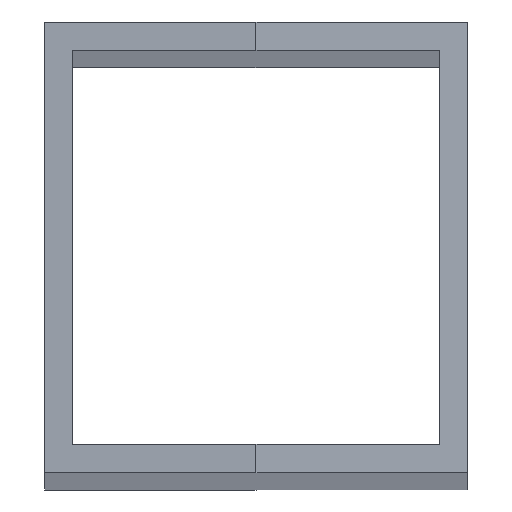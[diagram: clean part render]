
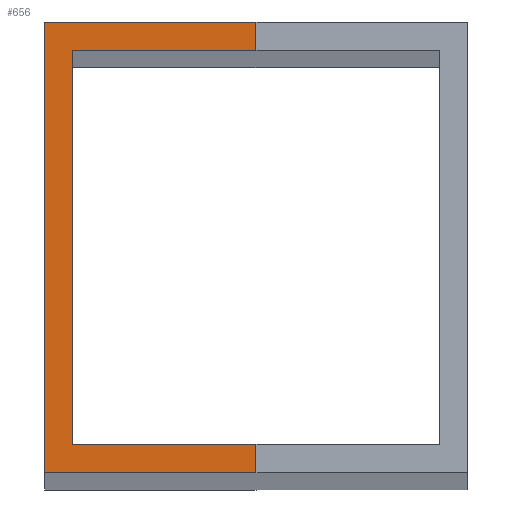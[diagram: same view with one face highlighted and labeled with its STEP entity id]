
A CAD part, top view. The second image highlights one B-rep face of the part: STEP entity #656.
In plain terms, the highlighted planar face has unit normal (0, 0, 1).
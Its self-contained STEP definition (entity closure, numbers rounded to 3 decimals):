
#32 = PLANE('',#33);
#33 = AXIS2_PLACEMENT_3D('',#34,#35,#36);
#34 = CARTESIAN_POINT('',(-37.5,-40.,0.));
#35 = DIRECTION('',(0.,1.,0.));
#36 = DIRECTION('',(1.,0.,0.));
#57 = VERTEX_POINT('',#58);
#58 = CARTESIAN_POINT('',(-37.5,-40.,1767.));
#72 = PLANE('',#73);
#73 = AXIS2_PLACEMENT_3D('',#74,#75,#76);
#74 = CARTESIAN_POINT('',(-37.5,40.,0.));
#75 = DIRECTION('',(1.,0.,-0.));
#76 = DIRECTION('',(0.,-1.,0.));
#84 = EDGE_CURVE('',#57,#85,#87,.T.);
#85 = VERTEX_POINT('',#86);
#86 = CARTESIAN_POINT('',(0.,-40.,1767.));
#87 = SURFACE_CURVE('',#88,(#92,#99),.PCURVE_S1.);
#88 = LINE('',#89,#90);
#89 = CARTESIAN_POINT('',(-37.5,-40.,1767.));
#90 = VECTOR('',#91,1.);
#91 = DIRECTION('',(1.,0.,0.));
#92 = PCURVE('',#32,#93);
#93 = DEFINITIONAL_REPRESENTATION('',(#94),#98);
#94 = LINE('',#95,#96);
#95 = CARTESIAN_POINT('',(0.,-1767.));
#96 = VECTOR('',#97,1.);
#97 = DIRECTION('',(1.,0.));
#98 = ( GEOMETRIC_REPRESENTATION_CONTEXT(2) 
PARAMETRIC_REPRESENTATION_CONTEXT() REPRESENTATION_CONTEXT('2D SPACE',''
  ) );
#99 = PCURVE('',#100,#105);
#100 = PLANE('',#101);
#101 = AXIS2_PLACEMENT_3D('',#102,#103,#104);
#102 = CARTESIAN_POINT('',(0.,0.,1767.));
#103 = DIRECTION('',(0.,0.,1.));
#104 = DIRECTION('',(1.,0.,-0.));
#105 = DEFINITIONAL_REPRESENTATION('',(#106),#110);
#106 = LINE('',#107,#108);
#107 = CARTESIAN_POINT('',(-37.5,-40.));
#108 = VECTOR('',#109,1.);
#109 = DIRECTION('',(1.,0.));
#110 = ( GEOMETRIC_REPRESENTATION_CONTEXT(2) 
PARAMETRIC_REPRESENTATION_CONTEXT() REPRESENTATION_CONTEXT('2D SPACE',''
  ) );
#127 = PLANE('',#128);
#128 = AXIS2_PLACEMENT_3D('',#129,#130,#131);
#129 = CARTESIAN_POINT('',(883.5,-0.,883.5));
#130 = DIRECTION('',(-0.707,0.,-0.707));
#131 = DIRECTION('',(-0.707,0.,0.707));
#254 = PLANE('',#255);
#255 = AXIS2_PLACEMENT_3D('',#256,#257,#258);
#256 = CARTESIAN_POINT('',(-32.5,-35.,0.));
#257 = DIRECTION('',(0.,1.,0.));
#258 = DIRECTION('',(1.,0.,0.));
#282 = PLANE('',#283);
#283 = AXIS2_PLACEMENT_3D('',#284,#285,#286);
#284 = CARTESIAN_POINT('',(-32.5,35.,0.));
#285 = DIRECTION('',(1.,0.,-0.));
#286 = DIRECTION('',(0.,-1.,0.));
#310 = PLANE('',#311);
#311 = AXIS2_PLACEMENT_3D('',#312,#313,#314);
#312 = CARTESIAN_POINT('',(32.5,35.,0.));
#313 = DIRECTION('',(0.,-1.,0.));
#314 = DIRECTION('',(-1.,0.,0.));
#357 = PLANE('',#358);
#358 = AXIS2_PLACEMENT_3D('',#359,#360,#361);
#359 = CARTESIAN_POINT('',(37.5,40.,0.));
#360 = DIRECTION('',(0.,-1.,0.));
#361 = DIRECTION('',(-1.,0.,0.));
#533 = EDGE_CURVE('',#534,#85,#536,.T.);
#534 = VERTEX_POINT('',#535);
#535 = CARTESIAN_POINT('',(0.,-35.,1767.));
#536 = SURFACE_CURVE('',#537,(#541,#547),.PCURVE_S1.);
#537 = LINE('',#538,#539);
#538 = CARTESIAN_POINT('',(0.,0.,1767.));
#539 = VECTOR('',#540,1.);
#540 = DIRECTION('',(-0.,-1.,0.));
#541 = PCURVE('',#127,#542);
#542 = DEFINITIONAL_REPRESENTATION('',(#543),#546);
#543 = B_SPLINE_CURVE_WITH_KNOTS('',1,(#544,#545),.UNSPECIFIED.,.F.,.F.,
  (2,2),(-40.,40.),.PIECEWISE_BEZIER_KNOTS.);
#544 = CARTESIAN_POINT('',(1249.458,40.));
#545 = CARTESIAN_POINT('',(1249.458,-40.));
#546 = ( GEOMETRIC_REPRESENTATION_CONTEXT(2) 
PARAMETRIC_REPRESENTATION_CONTEXT() REPRESENTATION_CONTEXT('2D SPACE',''
  ) );
#547 = PCURVE('',#100,#548);
#548 = DEFINITIONAL_REPRESENTATION('',(#549),#552);
#549 = B_SPLINE_CURVE_WITH_KNOTS('',1,(#550,#551),.UNSPECIFIED.,.F.,.F.,
  (2,2),(-40.,40.),.PIECEWISE_BEZIER_KNOTS.);
#550 = CARTESIAN_POINT('',(0.,40.));
#551 = CARTESIAN_POINT('',(0.,-40.));
#552 = ( GEOMETRIC_REPRESENTATION_CONTEXT(2) 
PARAMETRIC_REPRESENTATION_CONTEXT() REPRESENTATION_CONTEXT('2D SPACE',''
  ) );
#597 = VERTEX_POINT('',#598);
#598 = CARTESIAN_POINT('',(0.,35.,1767.));
#617 = EDGE_CURVE('',#618,#597,#620,.T.);
#618 = VERTEX_POINT('',#619);
#619 = CARTESIAN_POINT('',(0.,40.,1767.));
#620 = SURFACE_CURVE('',#621,(#625,#631),.PCURVE_S1.);
#621 = LINE('',#622,#623);
#622 = CARTESIAN_POINT('',(0.,0.,1767.));
#623 = VECTOR('',#624,1.);
#624 = DIRECTION('',(-0.,-1.,0.));
#625 = PCURVE('',#127,#626);
#626 = DEFINITIONAL_REPRESENTATION('',(#627),#630);
#627 = B_SPLINE_CURVE_WITH_KNOTS('',1,(#628,#629),.UNSPECIFIED.,.F.,.F.,
  (2,2),(-40.,40.),.PIECEWISE_BEZIER_KNOTS.);
#628 = CARTESIAN_POINT('',(1249.458,40.));
#629 = CARTESIAN_POINT('',(1249.458,-40.));
#630 = ( GEOMETRIC_REPRESENTATION_CONTEXT(2) 
PARAMETRIC_REPRESENTATION_CONTEXT() REPRESENTATION_CONTEXT('2D SPACE',''
  ) );
#631 = PCURVE('',#100,#632);
#632 = DEFINITIONAL_REPRESENTATION('',(#633),#636);
#633 = B_SPLINE_CURVE_WITH_KNOTS('',1,(#634,#635),.UNSPECIFIED.,.F.,.F.,
  (2,2),(-40.,40.),.PIECEWISE_BEZIER_KNOTS.);
#634 = CARTESIAN_POINT('',(0.,40.));
#635 = CARTESIAN_POINT('',(0.,-40.));
#636 = ( GEOMETRIC_REPRESENTATION_CONTEXT(2) 
PARAMETRIC_REPRESENTATION_CONTEXT() REPRESENTATION_CONTEXT('2D SPACE',''
  ) );
#656 = ADVANCED_FACE('',(#657),#100,.T.);
#657 = FACE_BOUND('',#658,.T.);
#658 = EDGE_LOOP('',(#659,#682,#683,#684,#707,#730,#751,#752));
#659 = ORIENTED_EDGE('',*,*,#660,.T.);
#660 = EDGE_CURVE('',#661,#57,#663,.T.);
#661 = VERTEX_POINT('',#662);
#662 = CARTESIAN_POINT('',(-37.5,40.,1767.));
#663 = SURFACE_CURVE('',#664,(#668,#675),.PCURVE_S1.);
#664 = LINE('',#665,#666);
#665 = CARTESIAN_POINT('',(-37.5,40.,1767.));
#666 = VECTOR('',#667,1.);
#667 = DIRECTION('',(0.,-1.,0.));
#668 = PCURVE('',#100,#669);
#669 = DEFINITIONAL_REPRESENTATION('',(#670),#674);
#670 = LINE('',#671,#672);
#671 = CARTESIAN_POINT('',(-37.5,40.));
#672 = VECTOR('',#673,1.);
#673 = DIRECTION('',(0.,-1.));
#674 = ( GEOMETRIC_REPRESENTATION_CONTEXT(2) 
PARAMETRIC_REPRESENTATION_CONTEXT() REPRESENTATION_CONTEXT('2D SPACE',''
  ) );
#675 = PCURVE('',#72,#676);
#676 = DEFINITIONAL_REPRESENTATION('',(#677),#681);
#677 = LINE('',#678,#679);
#678 = CARTESIAN_POINT('',(0.,-1767.));
#679 = VECTOR('',#680,1.);
#680 = DIRECTION('',(1.,0.));
#681 = ( GEOMETRIC_REPRESENTATION_CONTEXT(2) 
PARAMETRIC_REPRESENTATION_CONTEXT() REPRESENTATION_CONTEXT('2D SPACE',''
  ) );
#682 = ORIENTED_EDGE('',*,*,#84,.T.);
#683 = ORIENTED_EDGE('',*,*,#533,.F.);
#684 = ORIENTED_EDGE('',*,*,#685,.F.);
#685 = EDGE_CURVE('',#686,#534,#688,.T.);
#686 = VERTEX_POINT('',#687);
#687 = CARTESIAN_POINT('',(-32.5,-35.,1767.));
#688 = SURFACE_CURVE('',#689,(#693,#700),.PCURVE_S1.);
#689 = LINE('',#690,#691);
#690 = CARTESIAN_POINT('',(-32.5,-35.,1767.));
#691 = VECTOR('',#692,1.);
#692 = DIRECTION('',(1.,0.,0.));
#693 = PCURVE('',#100,#694);
#694 = DEFINITIONAL_REPRESENTATION('',(#695),#699);
#695 = LINE('',#696,#697);
#696 = CARTESIAN_POINT('',(-32.5,-35.));
#697 = VECTOR('',#698,1.);
#698 = DIRECTION('',(1.,0.));
#699 = ( GEOMETRIC_REPRESENTATION_CONTEXT(2) 
PARAMETRIC_REPRESENTATION_CONTEXT() REPRESENTATION_CONTEXT('2D SPACE',''
  ) );
#700 = PCURVE('',#254,#701);
#701 = DEFINITIONAL_REPRESENTATION('',(#702),#706);
#702 = LINE('',#703,#704);
#703 = CARTESIAN_POINT('',(0.,-1767.));
#704 = VECTOR('',#705,1.);
#705 = DIRECTION('',(1.,0.));
#706 = ( GEOMETRIC_REPRESENTATION_CONTEXT(2) 
PARAMETRIC_REPRESENTATION_CONTEXT() REPRESENTATION_CONTEXT('2D SPACE',''
  ) );
#707 = ORIENTED_EDGE('',*,*,#708,.F.);
#708 = EDGE_CURVE('',#709,#686,#711,.T.);
#709 = VERTEX_POINT('',#710);
#710 = CARTESIAN_POINT('',(-32.5,35.,1767.));
#711 = SURFACE_CURVE('',#712,(#716,#723),.PCURVE_S1.);
#712 = LINE('',#713,#714);
#713 = CARTESIAN_POINT('',(-32.5,35.,1767.));
#714 = VECTOR('',#715,1.);
#715 = DIRECTION('',(0.,-1.,0.));
#716 = PCURVE('',#100,#717);
#717 = DEFINITIONAL_REPRESENTATION('',(#718),#722);
#718 = LINE('',#719,#720);
#719 = CARTESIAN_POINT('',(-32.5,35.));
#720 = VECTOR('',#721,1.);
#721 = DIRECTION('',(0.,-1.));
#722 = ( GEOMETRIC_REPRESENTATION_CONTEXT(2) 
PARAMETRIC_REPRESENTATION_CONTEXT() REPRESENTATION_CONTEXT('2D SPACE',''
  ) );
#723 = PCURVE('',#282,#724);
#724 = DEFINITIONAL_REPRESENTATION('',(#725),#729);
#725 = LINE('',#726,#727);
#726 = CARTESIAN_POINT('',(0.,-1767.));
#727 = VECTOR('',#728,1.);
#728 = DIRECTION('',(1.,0.));
#729 = ( GEOMETRIC_REPRESENTATION_CONTEXT(2) 
PARAMETRIC_REPRESENTATION_CONTEXT() REPRESENTATION_CONTEXT('2D SPACE',''
  ) );
#730 = ORIENTED_EDGE('',*,*,#731,.F.);
#731 = EDGE_CURVE('',#597,#709,#732,.T.);
#732 = SURFACE_CURVE('',#733,(#737,#744),.PCURVE_S1.);
#733 = LINE('',#734,#735);
#734 = CARTESIAN_POINT('',(32.5,35.,1767.));
#735 = VECTOR('',#736,1.);
#736 = DIRECTION('',(-1.,0.,0.));
#737 = PCURVE('',#100,#738);
#738 = DEFINITIONAL_REPRESENTATION('',(#739),#743);
#739 = LINE('',#740,#741);
#740 = CARTESIAN_POINT('',(32.5,35.));
#741 = VECTOR('',#742,1.);
#742 = DIRECTION('',(-1.,0.));
#743 = ( GEOMETRIC_REPRESENTATION_CONTEXT(2) 
PARAMETRIC_REPRESENTATION_CONTEXT() REPRESENTATION_CONTEXT('2D SPACE',''
  ) );
#744 = PCURVE('',#310,#745);
#745 = DEFINITIONAL_REPRESENTATION('',(#746),#750);
#746 = LINE('',#747,#748);
#747 = CARTESIAN_POINT('',(0.,-1767.));
#748 = VECTOR('',#749,1.);
#749 = DIRECTION('',(1.,0.));
#750 = ( GEOMETRIC_REPRESENTATION_CONTEXT(2) 
PARAMETRIC_REPRESENTATION_CONTEXT() REPRESENTATION_CONTEXT('2D SPACE',''
  ) );
#751 = ORIENTED_EDGE('',*,*,#617,.F.);
#752 = ORIENTED_EDGE('',*,*,#753,.T.);
#753 = EDGE_CURVE('',#618,#661,#754,.T.);
#754 = SURFACE_CURVE('',#755,(#759,#766),.PCURVE_S1.);
#755 = LINE('',#756,#757);
#756 = CARTESIAN_POINT('',(37.5,40.,1767.));
#757 = VECTOR('',#758,1.);
#758 = DIRECTION('',(-1.,0.,0.));
#759 = PCURVE('',#100,#760);
#760 = DEFINITIONAL_REPRESENTATION('',(#761),#765);
#761 = LINE('',#762,#763);
#762 = CARTESIAN_POINT('',(37.5,40.));
#763 = VECTOR('',#764,1.);
#764 = DIRECTION('',(-1.,0.));
#765 = ( GEOMETRIC_REPRESENTATION_CONTEXT(2) 
PARAMETRIC_REPRESENTATION_CONTEXT() REPRESENTATION_CONTEXT('2D SPACE',''
  ) );
#766 = PCURVE('',#357,#767);
#767 = DEFINITIONAL_REPRESENTATION('',(#768),#772);
#768 = LINE('',#769,#770);
#769 = CARTESIAN_POINT('',(0.,-1767.));
#770 = VECTOR('',#771,1.);
#771 = DIRECTION('',(1.,0.));
#772 = ( GEOMETRIC_REPRESENTATION_CONTEXT(2) 
PARAMETRIC_REPRESENTATION_CONTEXT() REPRESENTATION_CONTEXT('2D SPACE',''
  ) );
